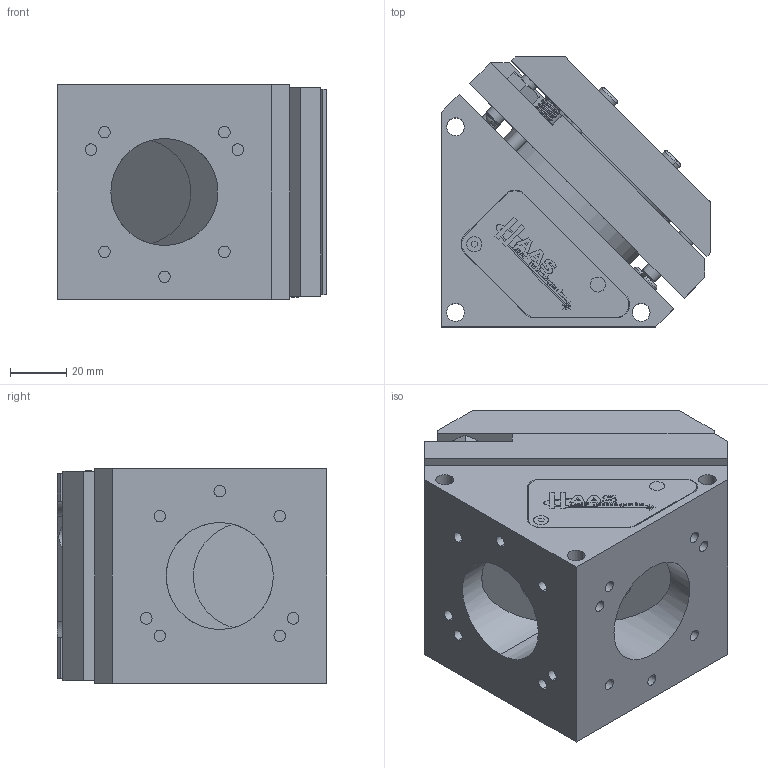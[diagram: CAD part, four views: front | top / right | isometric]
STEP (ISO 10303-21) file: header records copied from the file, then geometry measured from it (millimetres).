
FILE_DESCRIPTION (( 'STEP AP214' ), '1' );
FILE_NAME ('BBK-38-500095-WN.STEP', '2017-01-26T21:30:29', ( '' ), ( '' ), 'SwSTEP 2.0', 'SolidWorks 2017', '' );
FILE_SCHEMA (( 'AUTOMOTIVE_DESIGN' ));
Length unit declared in the file: inch
Products named in the file (1): BBK-38-500095-WN
Bounding box: 95.84 x 95.94 x 76.2 mm (x, y, z)
Volume: 495054.5 mm3; surface area: 103646.7 mm2
Topology: 27 solids, 27 shells, 990 faces, 2349 edges, 1496 vertices
Faces by surface type: plane 536, cylinder 260, cone 110, bspline 74, sphere 6, torus 4
Full cylindrical faces by diameter (mm): 1.6 x2
Entity records: 50431 total; most frequent: CARTESIAN_POINT 27386, ORIENTED_EDGE 4698, DIRECTION 4564, EDGE_CURVE 2349, AXIS2_PLACEMENT_3D 1543, VERTEX_POINT 1500, LINE 1478, VECTOR 1478
